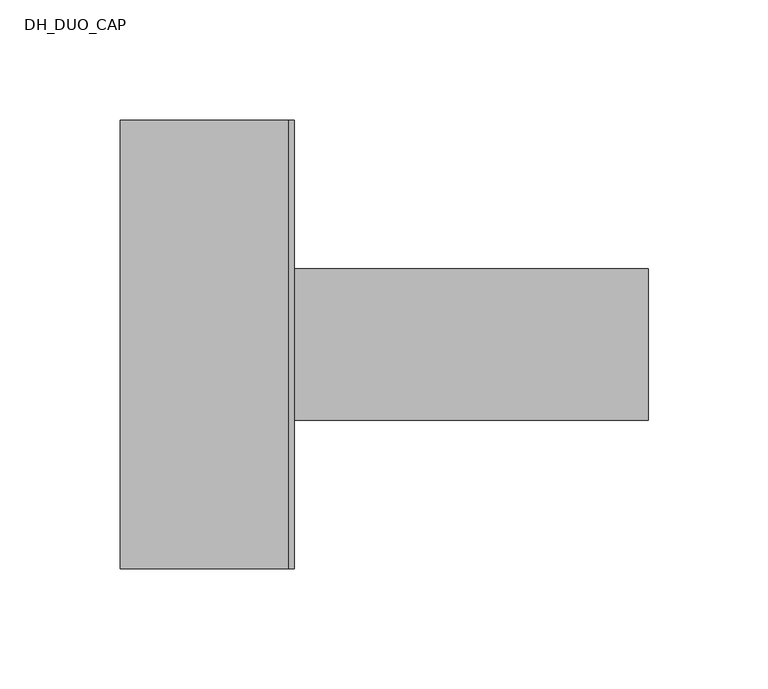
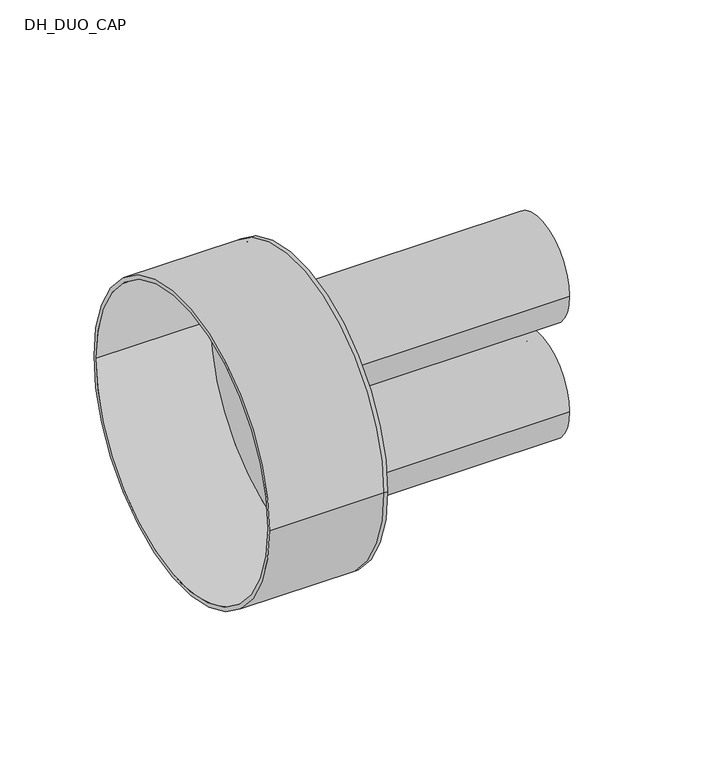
"""IFC4 building model written with IfcOpenShell, lengths in millimetres: pipe fitting geometry, DH_DUO_CAP : RAUTHERMEX DUO 7.4 Heating - Solid Cap."""

import ifcopenshell
import ifcopenshell.guid

model = None  # the IFC model being written
_history = None  # IfcOwnerHistory: only IFC2X3 demands one
_inside = {}  # id of a spatial element -> (the spatial element, [elements in it])
_under = {}  # id of a project, library or spatial element -> (it, [spatial elements below it])
_declared = {}  # id of a project -> (the project, [libraries it declares])
_typed = {}  # id of a type object -> (the type object, [elements of that type])
_made_of = {}  # id of a material, layer set ... -> (it, [elements and type objects made of it])


def new_model(schema):
    """Start an empty IFC model of exactly this schema.

    Asked for "IFC4X3", IfcOpenShell would pick the latest addendum, in which some entities
    have other attributes; the version numbers below select the first issue.
    IFC2X3 requires an IfcOwnerHistory on every rooted entity: one is made here for all.
    """
    global model, _history
    if schema == "IFC4X3":
        model = ifcopenshell.file(schema_version=(4, 3, 0, 0))
    else:
        model = ifcopenshell.file(schema=schema)
    _inside.clear()
    _under.clear()
    _declared.clear()
    _typed.clear()
    _made_of.clear()
    _history = None
    if model.schema == "IFC2X3":
        org = make("IfcOrganization", Name="unknown")
        user = make(
            "IfcPersonAndOrganization",
            ThePerson=make("IfcPerson", FamilyName="unknown"),
            TheOrganization=org,
        )
        app = make(
            "IfcApplication",
            ApplicationDeveloper=org,
            Version="unknown",
            ApplicationFullName="unknown",
            ApplicationIdentifier="unknown",
        )
        _history = make(
            "IfcOwnerHistory",
            OwningUser=user,
            OwningApplication=app,
            ChangeAction="ADDED",
            CreationDate=0,
        )
    return model


def make(cls, **values):
    """One entity of the class cls with the attributes given. An attribute that is None is left unset."""
    return model.create_entity(
        cls, **{name: value for name, value in values.items() if value is not None}
    )


def rooted(cls, **values):
    """An entity with a GlobalId (a new one), such as an element, a storey or a relation."""
    return make(cls, GlobalId=ifcopenshell.guid.new(), OwnerHistory=_history, **values)


def si_unit(unit_type, name, prefix=None):
    """IfcSIUnit, for example si_unit("LENGTHUNIT", "METRE", prefix="MILLI")."""
    return make("IfcSIUnit", UnitType=unit_type, Prefix=prefix, Name=name)


def assignment(units):
    """IfcUnitAssignment: the units of a project."""
    return None if units is None else make("IfcUnitAssignment", Units=units)


def point(xyz):
    """IfcCartesianPoint."""
    return None if xyz is None else make("IfcCartesianPoint", Coordinates=xyz)


def direction(xyz):
    """IfcDirection."""
    return None if xyz is None else make("IfcDirection", DirectionRatios=xyz)


def frame(location, z_axis=None, x_axis=None):
    """IfcAxis2Placement3D, a coordinate frame: its origin and axes. An axis left out is left unset."""
    return make(
        "IfcAxis2Placement3D",
        Location=point(location),
        Axis=direction(z_axis),
        RefDirection=direction(x_axis),
    )


def frame_2d(location, x_axis=None):
    """IfcAxis2Placement2D, a coordinate frame in the plane: its origin and x axis."""
    return make(
        "IfcAxis2Placement2D", Location=point(location), RefDirection=direction(x_axis)
    )


def origin():
    """The frame at (0, 0, 0) with its axes left unset."""
    return frame((0.0, 0.0, 0.0))


def place(relative_to, where):
    """IfcLocalPlacement: puts the frame where relative to a parent placement (None: the world)."""
    return make(
        "IfcLocalPlacement", PlacementRelTo=relative_to, RelativePlacement=where
    )


def context(
    kind, dimensions, precision=None, world=None, true_north=None, identifier=None
):
    """IfcGeometricRepresentationContext, for example the 3D "Model" context."""
    return make(
        "IfcGeometricRepresentationContext",
        ContextIdentifier=identifier,
        ContextType=kind,
        CoordinateSpaceDimension=dimensions,
        Precision=precision,
        WorldCoordinateSystem=world,
        TrueNorth=true_north,
    )


def project(units=None, contexts=None):
    """IfcProject with its units and contexts."""
    return rooted(
        "IfcProject",
        Name="project",
        RepresentationContexts=contexts,
        UnitsInContext=assignment(units),
    )


def spatial(cls, under=None, at=None, **own):
    """A site, building, storey or space (cls), placed at a placement, below another one or the project."""
    s = rooted(cls, ObjectPlacement=at, **own)
    if under is not None:
        _under.setdefault(under.id(), (under, []))[1].append(s)
    return s


def polyline(points):
    """IfcPolyline through the points."""
    return make("IfcPolyline", Points=[point(p) for p in points])


def circle_curve(where, radius):
    """IfcCircle in the frame where."""
    return make("IfcCircle", Position=where, Radius=radius)


def trimmed(basis, trim1, trim2, sense, master):
    """IfcTrimmedCurve: the piece of a basis curve between two trims."""
    return make(
        "IfcTrimmedCurve",
        BasisCurve=basis,
        Trim1=trim1,
        Trim2=trim2,
        SenseAgreement=sense,
        MasterRepresentation=master,
    )


def segment(curve, same_sense, transition):
    """IfcCompositeCurveSegment."""
    return make(
        "IfcCompositeCurveSegment",
        Transition=transition,
        SameSense=same_sense,
        ParentCurve=curve,
    )


def composite_curve(segments, self_intersect=None):
    """IfcCompositeCurve: segments joined end to end."""
    return make("IfcCompositeCurve", Segments=segments, SelfIntersect=self_intersect)


def outline(outer, holes=None, kind="AREA"):
    """IfcArbitraryClosedProfileDef: a profile drawn as a closed curve; with holes, ...WithVoids."""
    if holes is None:
        return make("IfcArbitraryClosedProfileDef", ProfileType=kind, OuterCurve=outer)
    return make(
        "IfcArbitraryProfileDefWithVoids",
        ProfileType=kind,
        OuterCurve=outer,
        InnerCurves=holes,
    )


def extrude(swept, where, along, depth):
    """IfcExtrudedAreaSolid: the profile swept, set in the frame where, extruded along a direction by depth."""
    return make(
        "IfcExtrudedAreaSolid",
        SweptArea=swept,
        Position=where,
        ExtrudedDirection=direction(along),
        Depth=depth,
    )


def shape(context_of_items, identifier, shape_type, items):
    """IfcShapeRepresentation: the items that make up one representation, for example the "Body"."""
    return make(
        "IfcShapeRepresentation",
        ContextOfItems=context_of_items,
        RepresentationIdentifier=identifier,
        RepresentationType=shape_type,
        Items=items,
    )


def source(mapping_origin, context_of_items, identifier, shape_type, items):
    """IfcRepresentationMap: a shape defined once, which mapped items show again and again."""
    return make(
        "IfcRepresentationMap",
        MappingOrigin=mapping_origin,
        MappedRepresentation=shape(context_of_items, identifier, shape_type, items),
    )


def transform(
    local_origin,
    x_axis=None,
    y_axis=None,
    z_axis=None,
    scale=None,
    scale2=None,
    scale3=None,
    uniform=True,
):
    """IfcCartesianTransformationOperator3D, or its non-uniform kind. x_axis, y_axis, z_axis: its Axis1, 2, 3."""
    if uniform:
        return make(
            "IfcCartesianTransformationOperator3D",
            Axis1=direction(x_axis),
            Axis2=direction(y_axis),
            LocalOrigin=point(local_origin),
            Scale=scale,
            Axis3=direction(z_axis),
        )
    return make(
        "IfcCartesianTransformationOperator3DnonUniform",
        Axis1=direction(x_axis),
        Axis2=direction(y_axis),
        LocalOrigin=point(local_origin),
        Scale=scale,
        Axis3=direction(z_axis),
        Scale2=scale2,
        Scale3=scale3,
    )


def mapped(mapping_source, mapping_target):
    """IfcMappedItem: shows the shape of a source again, moved by a transform."""
    return make(
        "IfcMappedItem", MappingSource=mapping_source, MappingTarget=mapping_target
    )


def made_of(thing, what):
    """Note that an element or type object is made of a material, layer set ...; save() writes the relation."""
    if what is not None:
        _made_of.setdefault(what.id(), (what, []))[1].append(thing)
    return thing


def element(
    cls,
    number,
    at=None,
    inside=None,
    cuts=None,
    type_object=None,
    material=None,
    context=None,
    identifier="Body",
    shape_type=None,
    held_by="IfcProductDefinitionShape",
    body=None,
    shapes=None,
    **own,
):
    """One element of the class cls, such as IfcWall. Its Tag is "e" and its number.

    at: its placement. inside: the storey or other place that contains it. cuts: it is an
    opening in that element (IfcRelVoidsElement). A single representation is given by context,
    identifier, shape_type and body (its items); several are given by shapes. held_by: the class
    of the entity that holds the representations. save() writes the other relations.
    """
    e = rooted(cls, Tag="e%d" % number, ObjectPlacement=at, **own)
    if body is not None:
        shapes = [shape(context, identifier, shape_type, body)]
    if shapes is not None:
        e.Representation = make(held_by, Representations=shapes)
    if inside is not None:
        _inside.setdefault(inside.id(), (inside, []))[1].append(e)
    if cuts is not None:
        rooted(
            "IfcRelVoidsElement", RelatingBuildingElement=cuts, RelatedOpeningElement=e
        )
    if type_object is not None:
        _typed.setdefault(type_object.id(), (type_object, []))[1].append(e)
    return made_of(e, material)


def aggregate(whole, parts):
    """IfcRelAggregates: a whole, such as a stair, and the parts it consists of."""
    return rooted("IfcRelAggregates", RelatingObject=whole, RelatedObjects=parts)


def save(model, path):
    """Write the relations noted so far, then the file.

    IfcRelAggregates (storeys below a building ...), IfcRelContainedInSpatialStructure (elements
    in a storey), IfcRelDefinesByType, IfcRelAssociatesMaterial and IfcRelDeclares: one each for
    every whole, place, type object, material and project.
    """
    for whole, parts in _under.values():
        aggregate(whole, parts)
    for where, things in _inside.values():
        rooted(
            "IfcRelContainedInSpatialStructure",
            RelatedElements=things,
            RelatingStructure=where,
        )
    for kind, things in _typed.values():
        rooted("IfcRelDefinesByType", RelatedObjects=things, RelatingType=kind)
    for what, things in _made_of.values():
        rooted("IfcRelAssociatesMaterial", RelatedObjects=things, RelatingMaterial=what)
    for by, libraries in _declared.values():
        rooted("IfcRelDeclares", RelatingContext=by, RelatedDefinitions=libraries)
    model.write(path)


def plane_surface(at):
    """IfcPlane: the flat surface through the origin of the frame at, square to its z axis."""
    return make("IfcPlane", Position=at)


def cylinder_surface(at, radius):
    """IfcCylindricalSurface: all points at the distance radius from the z axis of the frame at."""
    return make("IfcCylindricalSurface", Position=at, Radius=radius)


def revolved_surface(curve, axis_point, axis_direction):
    """IfcSurfaceOfRevolution: the curve turned about the line through axis_point along axis_direction."""
    return make(
        "IfcSurfaceOfRevolution",
        SweptCurve=make("IfcArbitraryOpenProfileDef", ProfileType="CURVE", Curve=curve),
        AxisPosition=make("IfcAxis1Placement", Location=point(axis_point), Axis=direction(axis_direction)),
    )


def advanced_brep(points, edges, surfaces, faces):
    """IfcAdvancedBrep: a solid bounded by faces that lie on surfaces and meet in shared edges.

    An edge is (start, end): straight between two places in points (the first is 0);
    or (start, end, curve); or (start, end, curve, False) where it runs against its curve.
    A face is (place in surfaces, loops), or (place, loops, False) where it looks against
    its surface's normal. A loop lists edges by number (the first is 1), with a minus sign
    where the edge is run from its end to its start. The first loop is the outer one.
    """
    corners = [point(p) for p in points]
    vertices = [make("IfcVertexPoint", VertexGeometry=c) for c in corners]
    made = []
    for start, end, *more in edges:
        made.append(
            make(
                "IfcEdgeCurve",
                EdgeStart=vertices[start],
                EdgeEnd=vertices[end],
                EdgeGeometry=more[0] if more else make("IfcPolyline", Points=[corners[start], corners[end]]),
                SameSense=more[1] if len(more) > 1 else True,
            )
        )
    hull = []
    for where, loops, *sense in faces:
        bounds = []
        for j, loop in enumerate(loops):
            ring = [make("IfcOrientedEdge", EdgeElement=made[abs(k) - 1], Orientation=k > 0) for k in loop]
            bounds.append(
                make(
                    "IfcFaceOuterBound" if j == 0 else "IfcFaceBound",
                    Bound=make("IfcEdgeLoop", EdgeList=ring),
                    Orientation=True,
                )
            )
        hull.append(make("IfcAdvancedFace", Bounds=bounds, FaceSurface=surfaces[where], SameSense=sense[0] if sense else True))
    return make("IfcAdvancedBrep", Outer=make("IfcClosedShell", CfsFaces=hull))


def dh_duo_cap_9e0c2c41(model_context):
    return source(origin(), model_context, "Body", "SolidModel", [
        extrude(outline(composite_curve([segment(trimmed(circle_curve(frame_2d((0.0, -37.5)), 31.5), [point((-31.5, -37.5))], [point((31.5, -37.5))], False, "CARTESIAN"), True, "CONTINUOUS"), segment(trimmed(circle_curve(frame_2d((0.0, -37.5)), 31.5), [point((31.5, -37.5))], [point((-31.5, -37.5))], False, "CARTESIAN"), True, "CONTINUOUS")], self_intersect=False), holes=[composite_curve([segment(trimmed(circle_curve(frame_2d((0.0, -37.5)), 22.9), [point((-22.9, -37.5))], [point((22.9, -37.5))], True, "CARTESIAN"), True, "CONTINUOUS"), segment(trimmed(circle_curve(frame_2d((0.0, -37.5)), 22.9), [point((22.9, -37.5))], [point((-22.9, -37.5))], True, "CARTESIAN"), True, "CONTINUOUS")], self_intersect=False)]), frame((0.0, 0.0, 0.0), z_axis=(1.0, 0.0, 0.0), x_axis=(0.0, 1.0, 0.0)), (0.0, 0.0, 1.0), 150.0),
        extrude(outline(composite_curve([segment(trimmed(circle_curve(frame_2d((0.0, 37.5)), 31.5), [point((-31.5, 37.5))], [point((31.5, 37.5))], False, "CARTESIAN"), True, "CONTINUOUS"), segment(trimmed(circle_curve(frame_2d((0.0, 37.5)), 31.5), [point((31.5, 37.5))], [point((-31.5, 37.5))], False, "CARTESIAN"), True, "CONTINUOUS")], self_intersect=False), holes=[composite_curve([segment(trimmed(circle_curve(frame_2d((0.0, 37.5)), 22.9), [point((-22.9, 37.5))], [point((22.9, 37.5))], True, "CARTESIAN"), True, "CONTINUOUS"), segment(trimmed(circle_curve(frame_2d((0.0, 37.5)), 22.9), [point((22.9, 37.5))], [point((-22.9, 37.5))], True, "CARTESIAN"), True, "CONTINUOUS")], self_intersect=False)]), frame((0.0, 0.0, 0.0), z_axis=(1.0, 0.0, 0.0), x_axis=(0.0, 1.0, 0.0)), (0.0, 0.0, 1.0), 150.0),
        advanced_brep(
        [(-70.0, -93.5, 0.0), (-70.0, 93.5, 0.0), (-70.0, -91.0, 0.0), (-70.0, 91.0, 0.0), (0.0, -91.0, 0.0), (0.0, 91.0, 0.0), (0.0, -93.5, 0.0), (0.0, 93.5, 0.0), (0.0, 31.5, 37.5), (0.0, -31.5, 37.5), (0.0, 31.5, -37.5), (0.0, -31.5, -37.5), (2.5, -93.5, 0.0), (2.5, 93.5, 0.0), (2.5, -31.5, 37.5), (2.5, 31.5, 37.5), (2.5, -31.5, -37.5), (2.5, 31.5, -37.5)],
        [
            (0, 1, circle_curve(frame((-70.0, 0.0, 0.0), z_axis=(-1.0, 0.0, 0.0), x_axis=(0.0, 1.0, 0.0)), 93.5)),
            (1, 0, circle_curve(frame((-70.0, 0.0, 0.0), z_axis=(-1.0, 0.0, 0.0), x_axis=(0.0, 1.0, 0.0)), 93.5)),
            (2, 3, circle_curve(frame((-70.0, 0.0, 0.0), z_axis=(1.0, 0.0, 0.0), x_axis=(0.0, 1.0, 0.0)), 91.0)),
            (3, 2, circle_curve(frame((-70.0, 0.0, 0.0), z_axis=(1.0, 0.0, 0.0), x_axis=(0.0, 1.0, 0.0)), 91.0)),
            (2, 4),
            (4, 5, circle_curve(frame((0.0, 0.0, 0.0), z_axis=(1.0, 0.0, 0.0), x_axis=(0.0, 1.0, 0.0)), 91.0)),
            (5, 3),
            (5, 4, circle_curve(frame((0.0, 0.0, 0.0), z_axis=(1.0, 0.0, 0.0), x_axis=(0.0, 1.0, 0.0)), 91.0)),
            (0, 6),
            (6, 7, circle_curve(frame((0.0, 0.0, 0.0), z_axis=(-1.0, 0.0, 0.0), x_axis=(0.0, 1.0, 0.0)), 93.5)),
            (7, 1),
            (7, 6, circle_curve(frame((0.0, 0.0, 0.0), z_axis=(-1.0, 0.0, 0.0), x_axis=(0.0, 1.0, 0.0)), 93.5)),
            (8, 9, circle_curve(frame((0.0, 0.0, 37.5), z_axis=(1.0, 0.0, 0.0), x_axis=(0.0, 1.0, 0.0)), 31.5)),
            (9, 8, circle_curve(frame((0.0, 0.0, 37.5), z_axis=(1.0, 0.0, 0.0), x_axis=(0.0, 1.0, 0.0)), 31.5)),
            (10, 11, circle_curve(frame((0.0, 0.0, -37.5), z_axis=(1.0, 0.0, 0.0), x_axis=(0.0, 1.0, 0.0)), 31.5)),
            (11, 10, circle_curve(frame((0.0, 0.0, -37.5), z_axis=(1.0, 0.0, 0.0), x_axis=(0.0, 1.0, 0.0)), 31.5)),
            (12, 13, circle_curve(frame((2.5, 0.0, 0.0), z_axis=(1.0, 0.0, 0.0), x_axis=(0.0, 1.0, 0.0)), 93.5)),
            (13, 12, circle_curve(frame((2.5, 0.0, 0.0), z_axis=(1.0, 0.0, 0.0), x_axis=(0.0, 1.0, 0.0)), 93.5)),
            (14, 15, circle_curve(frame((2.5, 0.0, 37.5), z_axis=(-1.0, 0.0, 0.0), x_axis=(0.0, 1.0, 0.0)), 31.5)),
            (15, 14, circle_curve(frame((2.5, 0.0, 37.5), z_axis=(-1.0, 0.0, 0.0), x_axis=(0.0, 1.0, 0.0)), 31.5)),
            (16, 17, circle_curve(frame((2.5, 0.0, -37.5), z_axis=(-1.0, 0.0, 0.0), x_axis=(0.0, 1.0, 0.0)), 31.5)),
            (17, 16, circle_curve(frame((2.5, 0.0, -37.5), z_axis=(-1.0, 0.0, 0.0), x_axis=(0.0, 1.0, 0.0)), 31.5)),
            (13, 7),
            (6, 12),
            (8, 15),
            (14, 9),
            (10, 17),
            (16, 11),
        ],
        [
            plane_surface(frame((-70.0, 0.0, 0.0), z_axis=(-1.0, 0.0, 0.0), x_axis=(0.0, 0.0, 1.0))),
            revolved_surface(polyline([(0.0, 91.0, 0.0), (-70.0, 91.0, 0.0)]), (-70.0, 0.0, 0.0), (1.0, 0.0, 0.0)),
            cylinder_surface(frame((-70.0, 0.0, 0.0), z_axis=(-1.0, 0.0, 0.0), x_axis=(0.0, 1.0, 0.0)), 93.5),
            plane_surface(frame((0.0, 0.0, 0.0), z_axis=(-1.0, 0.0, 0.0), x_axis=(0.0, 0.0, 1.0))),
            plane_surface(frame((2.5, 0.0, 0.0), z_axis=(1.0, 0.0, 0.0), x_axis=(0.0, 0.0, 1.0))),
            cylinder_surface(frame((0.0, 0.0, 0.0), z_axis=(-1.0, 0.0, 0.0), x_axis=(0.0, 1.0, 0.0)), 93.5),
            revolved_surface(polyline([(0.0, 31.5, 37.5), (2.5, 31.5, 37.5)]), (0.0, 0.0, 37.5), (-1.0, 0.0, 0.0)),
            revolved_surface(polyline([(0.0, 31.5, -37.5), (2.5, 31.5, -37.5)]), (0.0, 0.0, -37.5), (-1.0, 0.0, 0.0)),
        ],
        [
            (0, [[1, 2], [3, 4]]),
            (1, [[-3, 5, 6, 7]]),
            (1, [[-4, -7, 8, -5]]),
            (2, [[-1, 9, 10, 11]]),
            (2, [[-2, -11, 12, -9]]),
            (3, [[-6, -8], [13, 14], [15, 16]]),
            (4, [[17, 18], [19, 20], [21, 22]]),
            (5, [[-18, 23, -10, 24]]),
            (5, [[-17, -24, -12, -23]]),
            (6, [[25, -19, 26, -13]]),
            (6, [[-25, -14, -26, -20]]),
            (7, [[27, -21, 28, -15]]),
            (7, [[-27, -16, -28, -22]]),
        ],
    ),
    ])


if __name__ == "__main__":
    model = new_model("IFC4")
    model_context = context("Model", 3, world=origin())
    ifc_project = project(units=[si_unit("LENGTHUNIT", "METRE", prefix="MILLI")], contexts=[model_context])
    site = spatial("IfcSite", under=ifc_project)
    building = spatial("IfcBuilding", under=site)
    placement = place(None, origin())
    dh_duo_cap_shape = dh_duo_cap_9e0c2c41(model_context)
    element("IfcPipeFitting", 1, ObjectType="DH_DUO_CAP : RAUTHERMEX DUO 7.4 Heating - Solid Cap", at=placement, inside=building, context=model_context, shape_type="MappedRepresentation", body=[
        mapped(dh_duo_cap_shape, transform((0.0, 0.0, 0.0), x_axis=(1.0, 0.0, 0.0), y_axis=(0.0, 1.0, 0.0), z_axis=(0.0, 0.0, 1.0))),
    ])
    save(model, "model.ifc")
